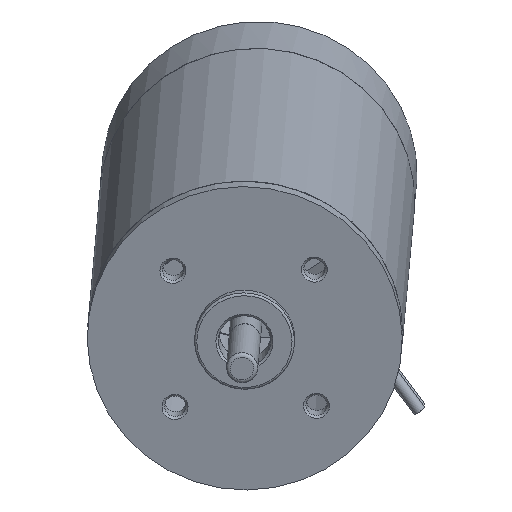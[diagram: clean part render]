
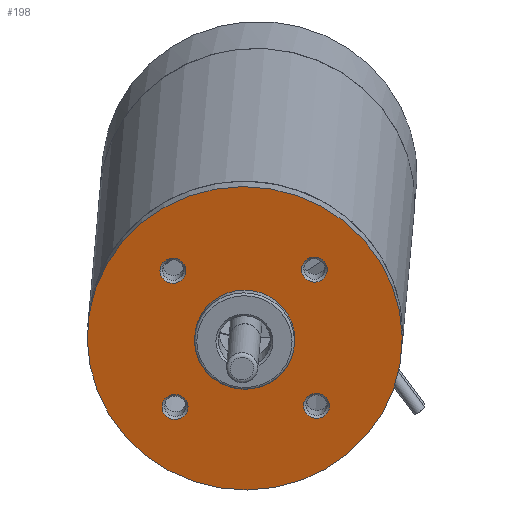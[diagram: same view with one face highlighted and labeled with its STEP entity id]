
A CAD part, top view. The second image highlights one B-rep face of the part: STEP entity #198.
In plain terms, the highlighted planar face has unit normal (-0.024, -0.272, 0.962) as drawn and (0, 0, 1) by its records, which use the part's own axes.
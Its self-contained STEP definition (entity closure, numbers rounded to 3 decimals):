
#123=CARTESIAN_POINT('',(-8.98,-7.33,2.6));
#124=VERTEX_POINT('',#123);
#125=CARTESIAN_POINT('',(-8.98,-8.98,2.6));
#126=DIRECTION('',(0.0,0.0,1.0));
#127=DIRECTION('',(0.0,-1.0,0.0));
#128=AXIS2_PLACEMENT_3D('',#125,#126,#127);
#129=CIRCLE('',#128,1.65);
#130=EDGE_CURVE('',#124,#124,#129,.T.);
#135=CARTESIAN_POINT('',(0.0,0.0,2.6));
#136=DIRECTION('',(0.0,0.0,-1.0));
#137=DIRECTION('',(-1.0,0.0,0.0));
#138=AXIS2_PLACEMENT_3D('',#135,#136,#137);
#139=PLANE('',#138);
#140=CARTESIAN_POINT('',(20.0,0.,2.6));
#141=VERTEX_POINT('',#140);
#142=CARTESIAN_POINT('',(0.0,0.0,2.6));
#143=DIRECTION('',(0.0,0.0,-1.0));
#144=DIRECTION('',(-1.0,0.0,0.0));
#145=AXIS2_PLACEMENT_3D('',#142,#143,#144);
#146=CIRCLE('',#145,20.0);
#147=EDGE_CURVE('',#141,#141,#146,.T.);
#148=ORIENTED_EDGE('',*,*,#147,.F.);
#149=EDGE_LOOP('',(#148));
#150=FACE_OUTER_BOUND('',#149,.T.);
#151=CARTESIAN_POINT('',(7.33,-8.98,2.6));
#152=VERTEX_POINT('',#151);
#153=CARTESIAN_POINT('',(8.98,-8.98,2.6));
#154=DIRECTION('',(0.0,0.0,1.0));
#155=DIRECTION('',(1.0,0.0,0.0));
#156=AXIS2_PLACEMENT_3D('',#153,#154,#155);
#157=CIRCLE('',#156,1.65);
#158=EDGE_CURVE('',#152,#152,#157,.T.);
#159=ORIENTED_EDGE('',*,*,#158,.F.);
#160=EDGE_LOOP('',(#159));
#161=FACE_BOUND('',#160,.T.);
#162=CARTESIAN_POINT('',(-7.33,8.98,2.6));
#163=VERTEX_POINT('',#162);
#164=CARTESIAN_POINT('',(-8.98,8.98,2.6));
#165=DIRECTION('',(0.0,0.0,1.0));
#166=DIRECTION('',(-1.0,0.0,0.0));
#167=AXIS2_PLACEMENT_3D('',#164,#165,#166);
#168=CIRCLE('',#167,1.65);
#169=EDGE_CURVE('',#163,#163,#168,.T.);
#170=ORIENTED_EDGE('',*,*,#169,.F.);
#171=EDGE_LOOP('',(#170));
#172=FACE_BOUND('',#171,.T.);
#173=CARTESIAN_POINT('',(6.35,0.,2.6));
#174=VERTEX_POINT('',#173);
#175=CARTESIAN_POINT('',(0.0,0.0,2.6));
#176=DIRECTION('',(0.0,0.0,-1.0));
#177=DIRECTION('',(-1.0,0.0,0.0));
#178=AXIS2_PLACEMENT_3D('',#175,#176,#177);
#179=CIRCLE('',#178,6.35);
#180=EDGE_CURVE('',#174,#174,#179,.T.);
#181=ORIENTED_EDGE('',*,*,#180,.T.);
#182=EDGE_LOOP('',(#181));
#183=FACE_BOUND('',#182,.T.);
#184=CARTESIAN_POINT('',(8.98,7.33,2.6));
#185=VERTEX_POINT('',#184);
#186=CARTESIAN_POINT('',(8.98,8.98,2.6));
#187=DIRECTION('',(0.0,0.0,1.0));
#188=DIRECTION('',(0.0,1.0,0.0));
#189=AXIS2_PLACEMENT_3D('',#186,#187,#188);
#190=CIRCLE('',#189,1.65);
#191=EDGE_CURVE('',#185,#185,#190,.T.);
#192=ORIENTED_EDGE('',*,*,#191,.F.);
#193=EDGE_LOOP('',(#192));
#194=FACE_BOUND('',#193,.T.);
#195=ORIENTED_EDGE('',*,*,#130,.F.);
#196=EDGE_LOOP('',(#195));
#197=FACE_BOUND('',#196,.T.);
#198=ADVANCED_FACE('',(#150,#161,#172,#183,#194,#197),#139,.F.);
